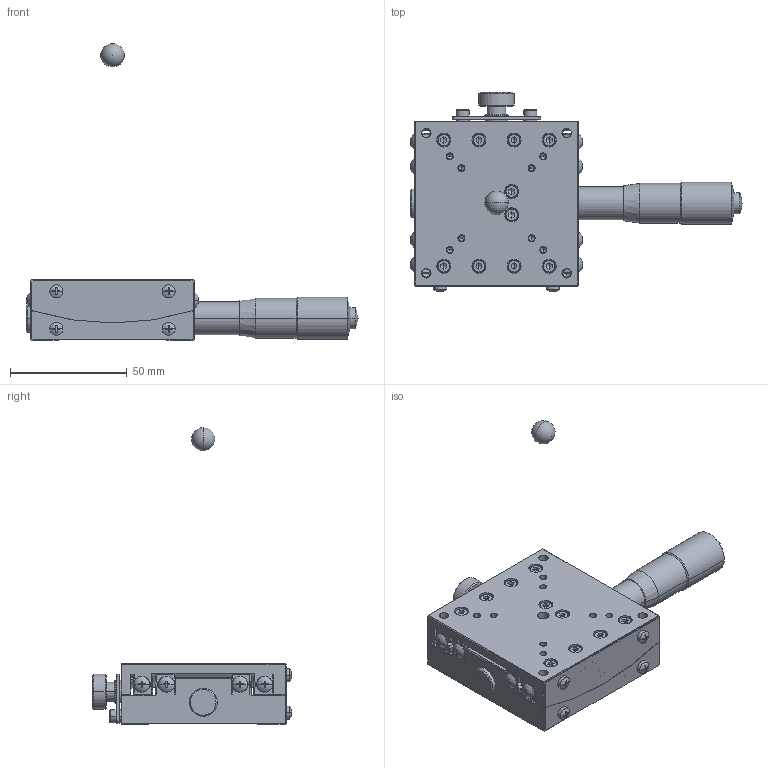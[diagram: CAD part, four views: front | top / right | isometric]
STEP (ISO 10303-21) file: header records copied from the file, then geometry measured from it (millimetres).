
FILE_DESCRIPTION (( 'STEP AP214' ), '1' );
FILE_NAME ('ST07A-C1M.STEP', '2007-01-19T02:21:16', ( ' ' ), ( ' ' ), 'SwSTEP 2.0', 'SolidWorks 2006052', '' );
FILE_SCHEMA (( 'AUTOMOTIVE_DESIGN' ));
Length unit declared in the file: millimetre
Products named in the file (6): 002600-1011(3D); ST07A-C1M-Part-1; MICROMETERHEAD(MHN4-25T)spindle-2; 002600-1020(3D); ST07A-C1M; 002590-1130(3D)-2
Assembly tree (5 placements, depth 2):
  ST07A-C1M
    002600-1020(3D)
    MICROMETERHEAD(MHN4-25T)spindle-2
    002590-1130(3D)-2
    ST07A-C1M-Part-1
    002600-1011(3D)
Bounding box: 142 x 85.39 x 127 mm (x, y, z)
Volume: 124270 mm3; surface area: 60305.8 mm2
Topology: 5 solids, 41 shells, 1823 faces, 4267 edges, 2514 vertices
Faces by surface type: plane 765, cylinder 594, cone 432, sphere 32
Entity records: 54885 total; most frequent: CARTESIAN_POINT 13023, DIRECTION 9147, ORIENTED_EDGE 8300, EDGE_CURVE 4150, AXIS2_PLACEMENT_3D 3528, VERTEX_POINT 2511, VECTOR 2091, LINE 2091
